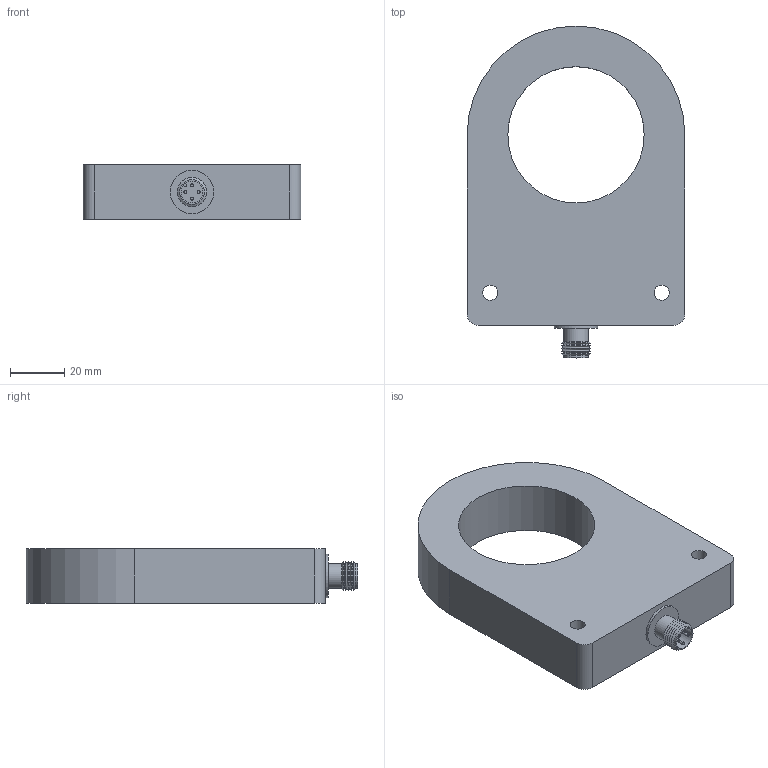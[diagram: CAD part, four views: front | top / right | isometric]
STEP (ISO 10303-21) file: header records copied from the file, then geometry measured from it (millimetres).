
FILE_DESCRIPTION(('FreeCAD Model'),'2;1');
FILE_NAME('Open CASCADE Shape Model','2025-10-24T14:32:17',(''),(''), 'Open CASCADE STEP processor 7.6','FreeCAD','Unknown');
FILE_SCHEMA(('AUTOMOTIVE_DESIGN { 1 0 10303 214 1 1 1 1 }'));
Length unit declared in the file: millimetre
Products named in the file (3): IR_50_PSK_ST4; Body; Anschluss
Assembly tree (2 placements, depth 2):
  IR_50_PSK_ST4
    Body
    Anschluss
Bounding box: 80 x 122 x 20 mm (x, y, z)
Volume: 122483.6 mm3; surface area: 23990.1 mm2
Topology: 2 solids, 2 shells, 45 faces, 86 edges, 51 vertices
Faces by surface type: plane 18, cylinder 17, cone 10
Full cylindrical faces by diameter (mm): 1 x4, 5.5 x2, 9 x2, 16 x1, 50.1 x1
Entity records: 1214 total; most frequent: DIRECTION 225, CARTESIAN_POINT 185, ORIENTED_EDGE 176, AXIS2_PLACEMENT_3D 91, EDGE_CURVE 86, FACE_BOUND 57, EDGE_LOOP 57, VERTEX_POINT 51
